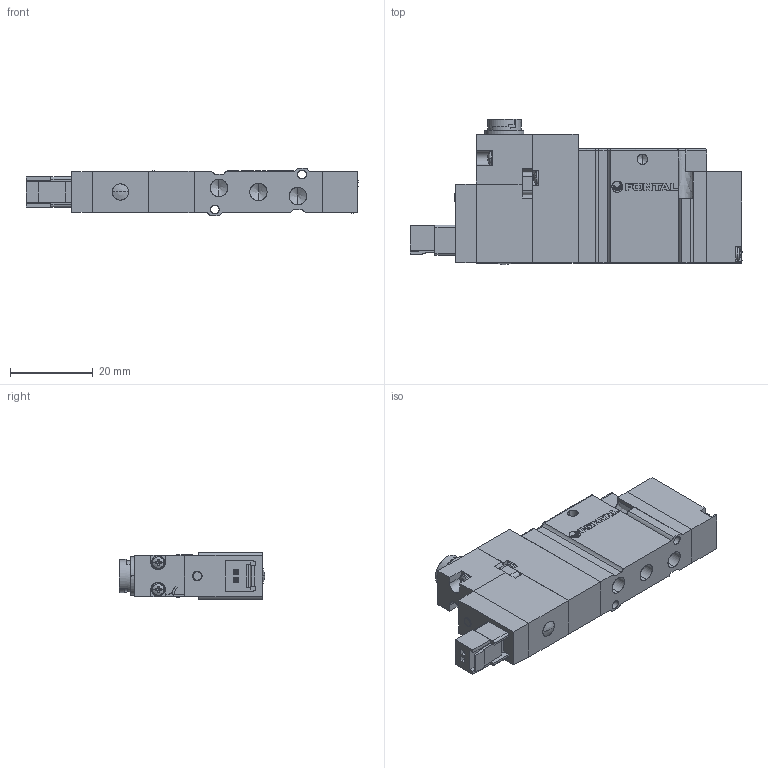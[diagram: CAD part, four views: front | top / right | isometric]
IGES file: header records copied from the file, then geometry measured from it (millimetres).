
Start section: SolidWorks IGES file using analytic representation for surfaces
Global section: file name: D:\Custom\3D繪製\ADEX\A05RS25\A05RS25#-#-#-E.IGS,1; native system: 5HSolidWorks 2014; preprocessor: SolidWorks 2014; author: Chieh_Lu; date: 150725.204641; units: millimetre
Bounding box: 80 x 35 x 11.4 mm (x, y, z)
Surface area: 11569.7 mm2 (no closed solid volume)
Topology: 0 solids, 0 shells, 713 faces, 5924 edges, 5894 vertices
Faces by surface type: bspline 476, revolution 237
